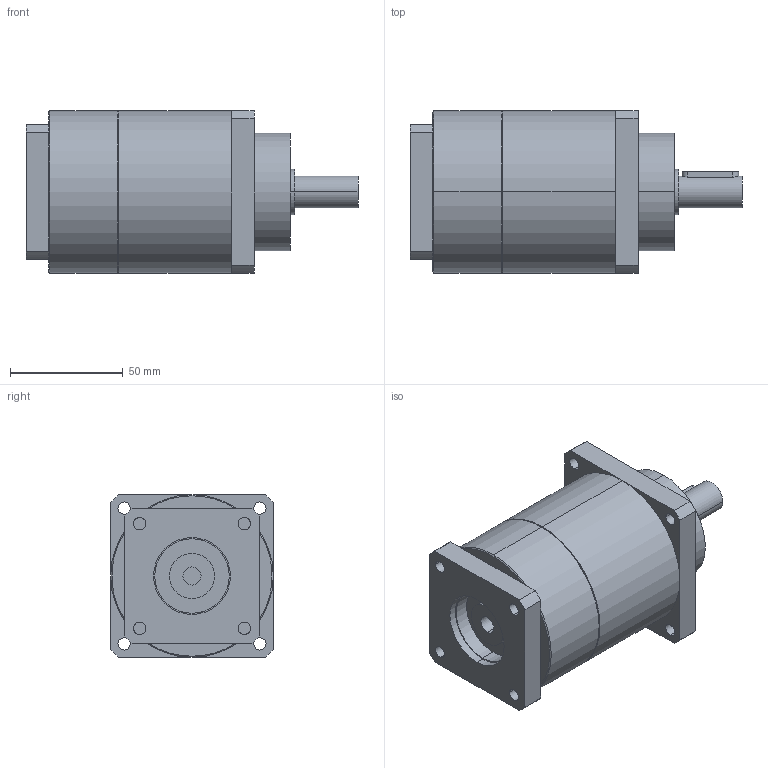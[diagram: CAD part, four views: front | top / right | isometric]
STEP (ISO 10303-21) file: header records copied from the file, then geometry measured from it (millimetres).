
FILE_DESCRIPTION(('CoCreate Modeling STEP Export'),'2;1');
FILE_NAME('GPT75_ig-9-12-16-20-25-28-35-40-50-70-100_14_B5T_8_P26.stp','2014-08-27T13:41:54',(''),(''),'CoCreate Modeling STEP processor for AP214 (Solid Model)','CoCreate Modeling 16.00C 25-Feb-2009 (C) Parametric Technology GmbH','');
FILE_SCHEMA(('AUTOMOTIVE_DESIGN { 1 0 10303 214 1 1 1 1 }'));
Length unit declared in the file: millimetre
Products named in the file (2): GPT75_ig-9-12-16-20-25-28-35-40-50-70-100_14_B5T_8_P26
Assembly tree (1 placements, depth 2):
  GPT75_ig-9-12-16-20-25-28-35-40-50-70-100_14_B5T_8_P26
    GPT75_ig-9-12-16-20-25-28-35-40-50-70-100_14_B5T_8_P26
Bounding box: 147 x 72 x 72 mm (x, y, z)
Volume: 444890.7 mm3; surface area: 41769.1 mm2
Topology: 1 solids, 1 shells, 88 faces, 211 edges, 134 vertices
Faces by surface type: cylinder 46, plane 38, cone 4
Entity records: 2589 total; most frequent: CARTESIAN_POINT 729, ORIENTED_EDGE 422, DIRECTION 326, EDGE_CURVE 211, VERTEX_POINT 134, AXIS2_PLACEMENT_3D 119, EDGE_LOOP 109, VECTOR 88
